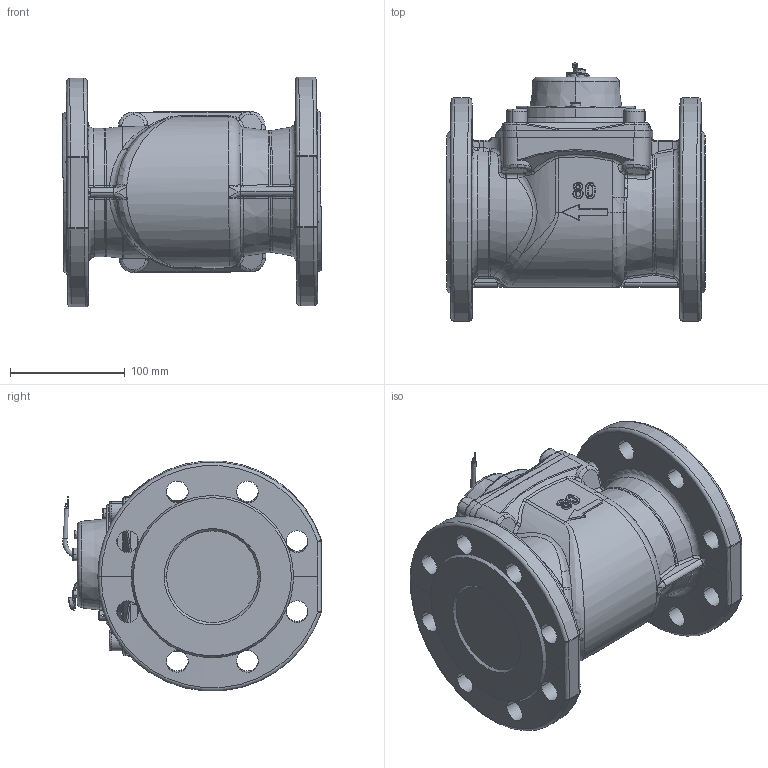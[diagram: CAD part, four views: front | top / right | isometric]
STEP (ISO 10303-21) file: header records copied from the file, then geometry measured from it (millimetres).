
FILE_DESCRIPTION (( 'STEP AP214' ), '1' );
FILE_NAME ('MWN130-80-NC.STEP', '2025-08-01T09:46:23', ( '' ), ( '' ), 'SwSTEP 2.0', 'SolidWorks 2019', '' );
FILE_SCHEMA (( 'AUTOMOTIVE_DESIGN' ));
Length unit declared in the file: millimetre
Products named in the file (1): MWN130-80-NC
Bounding box: 225.77 x 225.53 x 200.57 mm (x, y, z)
Volume: 3927764.7 mm3; surface area: 320513.2 mm2
Topology: 22 solids, 37 shells, 1630 faces, 4177 edges, 2591 vertices
Faces by surface type: plane 555, cylinder 401, bspline 336, cone 193, torus 134, sphere 11
Entity records: 89550 total; most frequent: CARTESIAN_POINT 34757, ORIENTED_EDGE 8222, DIRECTION 6894, EDGE_CURVE 4111, AXIS2_PLACEMENT_3D 2644, VERTEX_POINT 2591, EDGE_LOOP 1766, UNCERTAINTY_MEASURE_WITH_UNIT 1635
